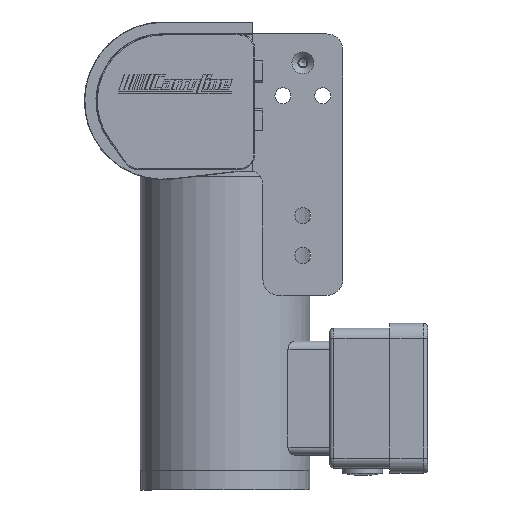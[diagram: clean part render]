
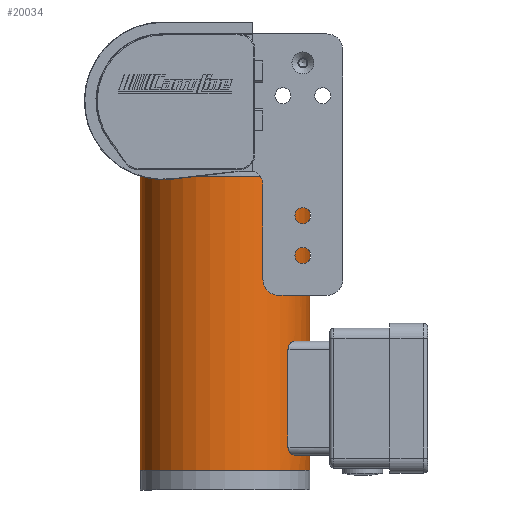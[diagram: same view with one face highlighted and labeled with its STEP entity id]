
A CAD part, left-side view. The second image highlights one B-rep face of the part: STEP entity #20034.
In plain terms, the highlighted cylindrical face has radius 42.5 mm (diameter 85 mm), a full revolution.
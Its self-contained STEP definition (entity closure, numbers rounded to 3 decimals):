
#10435=CARTESIAN_POINT('',(-48.735,58.537,-1071.397));
#10436=VERTEX_POINT('',#10435);
#10437=CARTESIAN_POINT('',(-48.735,58.537,-1022.397));
#10438=VERTEX_POINT('',#10437);
#10439=CARTESIAN_POINT('',(-48.735,58.537,-1071.397));
#10440=DIRECTION('',(0.0,0.0,1.0));
#10441=VECTOR('',#10440,49.);
#10442=LINE('',#10439,#10441);
#10443=EDGE_CURVE('',#10436,#10438,#10442,.T.);
#10475=CARTESIAN_POINT('',(-44.735,55.337,-1075.397));
#10476=VERTEX_POINT('',#10475);
#10477=CARTESIAN_POINT('',(-44.735,55.337,-1075.397));
#10478=CARTESIAN_POINT('',(-45.262,55.708,-1075.397));
#10479=CARTESIAN_POINT('',(-45.819,56.121,-1075.288));
#10480=CARTESIAN_POINT('',(-46.847,56.921,-1074.84));
#10481=CARTESIAN_POINT('',(-47.319,57.308,-1074.501));
#10482=CARTESIAN_POINT('',(-47.989,57.876,-1073.764));
#10483=CARTESIAN_POINT('',(-48.261,58.114,-1073.351));
#10484=CARTESIAN_POINT('',(-48.635,58.445,-1072.419));
#10485=CARTESIAN_POINT('',(-48.735,58.537,-1071.899));
#10486=CARTESIAN_POINT('',(-48.735,58.537,-1071.397));
#10487=B_SPLINE_CURVE_WITH_KNOTS('',3,(#10477,#10478,#10479,#10480,#10481,#10482,#10483,#10484,#10485,#10486),.UNSPECIFIED.,.F.,.U.,(4,2,2,2,4),(-0.688,-0.495,-0.301,-0.151,0.0),.UNSPECIFIED.);
#10488=EDGE_CURVE('',#10476,#10436,#10487,.T.);
#10514=CARTESIAN_POINT('',(4.265,55.339,-1075.397));
#10515=VERTEX_POINT('',#10514);
#10516=CARTESIAN_POINT('',(-20.236,90.065,-1075.397));
#10517=DIRECTION('',(0.,0.,-1.0));
#10518=DIRECTION('',(0.,1.,0.));
#10519=AXIS2_PLACEMENT_3D('',#10516,#10517,#10518);
#10520=CIRCLE('',#10519,42.5);
#10521=EDGE_CURVE('',#10515,#10476,#10520,.T.);
#10546=CARTESIAN_POINT('',(8.265,58.539,-1071.397));
#10547=VERTEX_POINT('',#10546);
#10548=CARTESIAN_POINT('',(8.265,58.539,-1071.397));
#10549=CARTESIAN_POINT('',(8.265,58.539,-1071.899));
#10550=CARTESIAN_POINT('',(8.164,58.447,-1072.419));
#10551=CARTESIAN_POINT('',(7.791,58.116,-1073.351));
#10552=CARTESIAN_POINT('',(7.519,57.878,-1073.764));
#10553=CARTESIAN_POINT('',(6.849,57.31,-1074.501));
#10554=CARTESIAN_POINT('',(6.377,56.923,-1074.84));
#10555=CARTESIAN_POINT('',(5.349,56.123,-1075.288));
#10556=CARTESIAN_POINT('',(4.791,55.71,-1075.397));
#10557=CARTESIAN_POINT('',(4.265,55.339,-1075.397));
#10558=B_SPLINE_CURVE_WITH_KNOTS('',3,(#10548,#10549,#10550,#10551,#10552,#10553,#10554,#10555,#10556,#10557),.UNSPECIFIED.,.F.,.U.,(4,2,2,2,4),(1.348,1.499,1.649,1.843,2.036),.UNSPECIFIED.);
#10559=EDGE_CURVE('',#10547,#10515,#10558,.T.);
#11371=CARTESIAN_POINT('',(8.265,58.539,-1022.397));
#11372=VERTEX_POINT('',#11371);
#11373=CARTESIAN_POINT('',(8.265,58.539,-1022.397));
#11374=DIRECTION('',(0.0,0.0,-1.0));
#11375=VECTOR('',#11374,49.);
#11376=LINE('',#11373,#11375);
#11377=EDGE_CURVE('',#11372,#10547,#11376,.T.);
#11395=CARTESIAN_POINT('',(4.265,55.339,-1018.397));
#11396=VERTEX_POINT('',#11395);
#11397=CARTESIAN_POINT('',(4.265,55.339,-1018.397));
#11398=CARTESIAN_POINT('',(4.761,55.689,-1018.397));
#11399=CARTESIAN_POINT('',(5.288,56.078,-1018.494));
#11400=CARTESIAN_POINT('',(6.27,56.838,-1018.895));
#11401=CARTESIAN_POINT('',(6.724,57.208,-1019.199));
#11402=CARTESIAN_POINT('',(7.421,57.793,-1019.897));
#11403=CARTESIAN_POINT('',(7.727,58.06,-1020.324));
#11404=CARTESIAN_POINT('',(8.149,58.433,-1021.304));
#11405=CARTESIAN_POINT('',(8.265,58.539,-1021.857));
#11406=CARTESIAN_POINT('',(8.265,58.539,-1022.397));
#11407=B_SPLINE_CURVE_WITH_KNOTS('',3,(#11397,#11398,#11399,#11400,#11401,#11402,#11403,#11404,#11405,#11406),.UNSPECIFIED.,.F.,.U.,(4,2,2,2,4),(0.66,0.842,1.024,1.186,1.348),.UNSPECIFIED.);
#11408=EDGE_CURVE('',#11396,#11372,#11407,.T.);
#11426=CARTESIAN_POINT('',(-44.735,55.337,-1018.397));
#11427=VERTEX_POINT('',#11426);
#11428=CARTESIAN_POINT('',(-20.236,90.065,-1018.397));
#11429=DIRECTION('',(0.,0.,1.0));
#11430=DIRECTION('',(0.,1.,0.));
#11431=AXIS2_PLACEMENT_3D('',#11428,#11429,#11430);
#11432=CIRCLE('',#11431,42.5);
#11433=EDGE_CURVE('',#11427,#11396,#11432,.T.);
#11451=CARTESIAN_POINT('',(-48.735,58.537,-1022.397));
#11452=CARTESIAN_POINT('',(-48.735,58.537,-1021.857));
#11453=CARTESIAN_POINT('',(-48.62,58.431,-1021.304));
#11454=CARTESIAN_POINT('',(-48.198,58.058,-1020.324));
#11455=CARTESIAN_POINT('',(-47.892,57.791,-1019.897));
#11456=CARTESIAN_POINT('',(-47.194,57.206,-1019.199));
#11457=CARTESIAN_POINT('',(-46.74,56.836,-1018.895));
#11458=CARTESIAN_POINT('',(-45.759,56.077,-1018.494));
#11459=CARTESIAN_POINT('',(-45.232,55.687,-1018.397));
#11460=CARTESIAN_POINT('',(-44.735,55.337,-1018.397));
#11461=B_SPLINE_CURVE_WITH_KNOTS('',3,(#11451,#11452,#11453,#11454,#11455,#11456,#11457,#11458,#11459,#11460),.UNSPECIFIED.,.F.,.U.,(4,2,2,2,4),(0.0,0.162,0.324,0.506,0.688),.UNSPECIFIED.);
#11462=EDGE_CURVE('',#10438,#11427,#11461,.T.);
#19945=CARTESIAN_POINT('',(-20.235,47.565,-935.897));
#19946=VERTEX_POINT('',#19945);
#19947=CARTESIAN_POINT('',(-20.236,90.065,-935.897));
#19948=DIRECTION('',(0.,0.,-1.0));
#19949=DIRECTION('',(0.,1.,0.));
#19950=AXIS2_PLACEMENT_3D('',#19947,#19948,#19949);
#19951=CIRCLE('',#19950,42.5);
#19952=EDGE_CURVE('',#19946,#19946,#19951,.T.);
#19998=CARTESIAN_POINT('',(-20.238,132.565,-1082.897));
#19999=VERTEX_POINT('',#19998);
#20000=CARTESIAN_POINT('',(-20.236,90.065,-1082.897));
#20001=DIRECTION('',(0.,0.,1.0));
#20002=DIRECTION('',(0.,1.,0.));
#20003=AXIS2_PLACEMENT_3D('',#20000,#20001,#20002);
#20004=CIRCLE('',#20003,42.5);
#20005=EDGE_CURVE('',#19999,#19999,#20004,.T.);
#20013=CARTESIAN_POINT('',(-20.236,90.065,-935.897));
#20014=DIRECTION('',(0.,0.,-1.0));
#20015=DIRECTION('',(0.,1.,0.));
#20016=AXIS2_PLACEMENT_3D('',#20013,#20014,#20015);
#20017=CYLINDRICAL_SURFACE('',#20016,42.5);
#20018=ORIENTED_EDGE('',*,*,#10559,.T.);
#20019=ORIENTED_EDGE('',*,*,#10521,.T.);
#20020=ORIENTED_EDGE('',*,*,#10488,.T.);
#20021=ORIENTED_EDGE('',*,*,#10443,.T.);
#20022=ORIENTED_EDGE('',*,*,#11462,.T.);
#20023=ORIENTED_EDGE('',*,*,#11433,.T.);
#20024=ORIENTED_EDGE('',*,*,#11408,.T.);
#20025=ORIENTED_EDGE('',*,*,#11377,.T.);
#20026=EDGE_LOOP('',(#20018,#20019,#20020,#20021,#20022,#20023,#20024,#20025));
#20027=FACE_OUTER_BOUND('',#20026,.T.);
#20028=ORIENTED_EDGE('',*,*,#20005,.T.);
#20029=EDGE_LOOP('',(#20028));
#20030=FACE_BOUND('',#20029,.T.);
#20031=ORIENTED_EDGE('',*,*,#19952,.T.);
#20032=EDGE_LOOP('',(#20031));
#20033=FACE_BOUND('',#20032,.T.);
#20034=ADVANCED_FACE('',(#20027,#20030,#20033),#20017,.T.);
